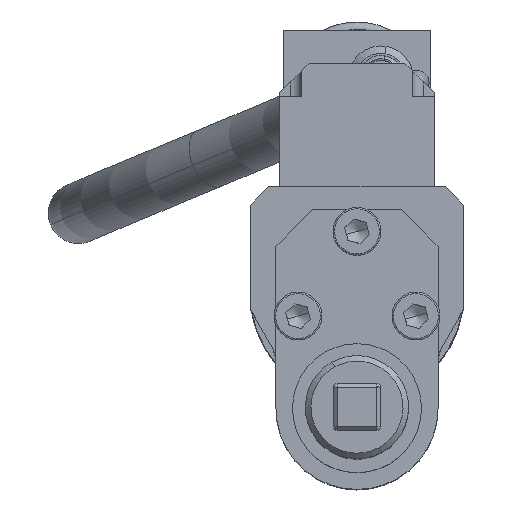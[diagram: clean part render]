
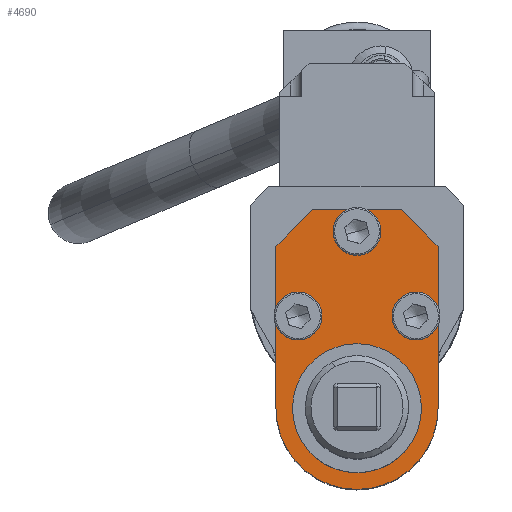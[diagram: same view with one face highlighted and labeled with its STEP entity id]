
A CAD part, top view. The second image highlights one B-rep face of the part: STEP entity #4690.
In plain terms, the highlighted planar face has unit normal (0, 0, 1).
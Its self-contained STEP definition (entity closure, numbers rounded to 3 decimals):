
#4419=CARTESIAN_POINT('Vertex',(17.5,-31.32,508.2)) ;
#4424=CARTESIAN_POINT('Axis2P3D Location',(0.,-31.32,508.2)) ;
#4428=CARTESIAN_POINT('Vertex',(-17.5,-31.32,508.2)) ;
#4450=CARTESIAN_POINT('Axis2P3D Location',(0.,-31.32,508.2)) ;
#4553=CARTESIAN_POINT('Axis2P3D Location',(16.,-6.32,508.2)) ;
#4557=CARTESIAN_POINT('Vertex',(12.206,-4.247,508.2)) ;
#4559=CARTESIAN_POINT('Vertex',(19.794,-8.393,508.2)) ;
#4579=CARTESIAN_POINT('Axis2P3D Location',(16.,-6.32,508.2)) ;
#4591=CARTESIAN_POINT('Axis2P3D Location',(0.,2.78,508.2)) ;
#4596=CARTESIAN_POINT('Line Origine',(-17.,17.68,508.2)) ;
#4600=CARTESIAN_POINT('Vertex',(-12.,22.68,508.2)) ;
#4602=CARTESIAN_POINT('Vertex',(-22.,12.68,508.2)) ;
#4605=CARTESIAN_POINT('Line Origine',(-22.,-9.32,508.2)) ;
#4609=CARTESIAN_POINT('Vertex',(-22.,-31.32,508.2)) ;
#4612=CARTESIAN_POINT('Axis2P3D Location',(0.,-31.32,508.2)) ;
#4616=CARTESIAN_POINT('Vertex',(22.,-31.32,508.2)) ;
#4619=CARTESIAN_POINT('Line Origine',(22.,-9.32,508.2)) ;
#4623=CARTESIAN_POINT('Vertex',(22.,12.68,508.2)) ;
#4626=CARTESIAN_POINT('Line Origine',(17.,17.68,508.2)) ;
#4630=CARTESIAN_POINT('Vertex',(12.,22.68,508.2)) ;
#4633=CARTESIAN_POINT('Line Origine',(0.,22.68,508.2)) ;
#4654=CARTESIAN_POINT('Axis2P3D Location',(-16.,-6.32,508.2)) ;
#4658=CARTESIAN_POINT('Vertex',(-19.794,-4.247,508.2)) ;
#4660=CARTESIAN_POINT('Vertex',(-12.206,-8.393,508.2)) ;
#4663=CARTESIAN_POINT('Axis2P3D Location',(-16.,-6.32,508.2)) ;
#4672=CARTESIAN_POINT('Axis2P3D Location',(0.,16.68,508.2)) ;
#4676=CARTESIAN_POINT('Vertex',(-3.794,18.753,508.2)) ;
#4678=CARTESIAN_POINT('Vertex',(3.794,14.607,508.2)) ;
#4681=CARTESIAN_POINT('Axis2P3D Location',(0.,16.68,508.2)) ;
#4425=DIRECTION('Axis2P3D Direction',(0.,0.,1.)) ;
#4451=DIRECTION('Axis2P3D Direction',(0.,0.,1.)) ;
#4554=DIRECTION('Axis2P3D Direction',(0.,0.,1.)) ;
#4580=DIRECTION('Axis2P3D Direction',(0.,0.,1.)) ;
#4592=DIRECTION('Axis2P3D Direction',(0.,0.,1.)) ;
#4593=DIRECTION('Axis2P3D XDirection',(1.,0.,0.)) ;
#4597=DIRECTION('Vector Direction',(-0.707,-0.707,0.)) ;
#4606=DIRECTION('Vector Direction',(0.,1.,0.)) ;
#4613=DIRECTION('Axis2P3D Direction',(0.,0.,1.)) ;
#4620=DIRECTION('Vector Direction',(0.,-1.,0.)) ;
#4627=DIRECTION('Vector Direction',(0.707,-0.707,0.)) ;
#4634=DIRECTION('Vector Direction',(1.,0.,0.)) ;
#4655=DIRECTION('Axis2P3D Direction',(0.,0.,1.)) ;
#4664=DIRECTION('Axis2P3D Direction',(0.,0.,1.)) ;
#4673=DIRECTION('Axis2P3D Direction',(0.,0.,1.)) ;
#4682=DIRECTION('Axis2P3D Direction',(0.,0.,1.)) ;
#4426=AXIS2_PLACEMENT_3D('Circle Axis2P3D',#4424,#4425,$) ;
#4452=AXIS2_PLACEMENT_3D('Circle Axis2P3D',#4450,#4451,$) ;
#4555=AXIS2_PLACEMENT_3D('Circle Axis2P3D',#4553,#4554,$) ;
#4581=AXIS2_PLACEMENT_3D('Circle Axis2P3D',#4579,#4580,$) ;
#4594=AXIS2_PLACEMENT_3D('Plane Axis2P3D',#4591,#4592,#4593) ;
#4614=AXIS2_PLACEMENT_3D('Circle Axis2P3D',#4612,#4613,$) ;
#4656=AXIS2_PLACEMENT_3D('Circle Axis2P3D',#4654,#4655,$) ;
#4665=AXIS2_PLACEMENT_3D('Circle Axis2P3D',#4663,#4664,$) ;
#4674=AXIS2_PLACEMENT_3D('Circle Axis2P3D',#4672,#4673,$) ;
#4683=AXIS2_PLACEMENT_3D('Circle Axis2P3D',#4681,#4682,$) ;
#4639=ORIENTED_EDGE('',*,*,#4604,.T.) ;
#4640=ORIENTED_EDGE('',*,*,#4611,.T.) ;
#4641=ORIENTED_EDGE('',*,*,#4618,.T.) ;
#4642=ORIENTED_EDGE('',*,*,#4625,.T.) ;
#4643=ORIENTED_EDGE('',*,*,#4632,.T.) ;
#4644=ORIENTED_EDGE('',*,*,#4637,.T.) ;
#4647=ORIENTED_EDGE('',*,*,#4430,.F.) ;
#4648=ORIENTED_EDGE('',*,*,#4454,.F.) ;
#4651=ORIENTED_EDGE('',*,*,#4561,.F.) ;
#4652=ORIENTED_EDGE('',*,*,#4583,.F.) ;
#4669=ORIENTED_EDGE('',*,*,#4662,.F.) ;
#4670=ORIENTED_EDGE('',*,*,#4667,.F.) ;
#4687=ORIENTED_EDGE('',*,*,#4680,.F.) ;
#4688=ORIENTED_EDGE('',*,*,#4685,.F.) ;
#4649=FACE_BOUND('',#4646,.T.) ;
#4653=FACE_BOUND('',#4650,.T.) ;
#4671=FACE_BOUND('',#4668,.T.) ;
#4689=FACE_BOUND('',#4686,.T.) ;
#4598=VECTOR('Line Direction',#4597,1.) ;
#4607=VECTOR('Line Direction',#4606,1.) ;
#4621=VECTOR('Line Direction',#4620,1.) ;
#4628=VECTOR('Line Direction',#4627,1.) ;
#4635=VECTOR('Line Direction',#4634,1.) ;
#4690=ADVANCED_FACE('',(#4645,#4649,#4653,#4671,#4689),#4595,.T.) ;
#4427=CIRCLE('generated circle',#4426,17.5) ;
#4453=CIRCLE('generated circle',#4452,17.5) ;
#4556=CIRCLE('generated circle',#4555,4.324) ;
#4582=CIRCLE('generated circle',#4581,4.324) ;
#4615=CIRCLE('generated circle',#4614,22.) ;
#4657=CIRCLE('generated circle',#4656,4.324) ;
#4666=CIRCLE('generated circle',#4665,4.324) ;
#4675=CIRCLE('generated circle',#4674,4.324) ;
#4684=CIRCLE('generated circle',#4683,4.324) ;
#4430=EDGE_CURVE('',#4420,#4429,#4427,.T.) ;
#4454=EDGE_CURVE('',#4429,#4420,#4453,.T.) ;
#4561=EDGE_CURVE('',#4558,#4560,#4556,.T.) ;
#4583=EDGE_CURVE('',#4560,#4558,#4582,.T.) ;
#4604=EDGE_CURVE('',#4601,#4603,#4599,.T.) ;
#4611=EDGE_CURVE('',#4603,#4610,#4608,.F.) ;
#4618=EDGE_CURVE('',#4610,#4617,#4615,.T.) ;
#4625=EDGE_CURVE('',#4617,#4624,#4622,.F.) ;
#4632=EDGE_CURVE('',#4624,#4631,#4629,.F.) ;
#4637=EDGE_CURVE('',#4631,#4601,#4636,.F.) ;
#4662=EDGE_CURVE('',#4659,#4661,#4657,.T.) ;
#4667=EDGE_CURVE('',#4661,#4659,#4666,.T.) ;
#4680=EDGE_CURVE('',#4677,#4679,#4675,.T.) ;
#4685=EDGE_CURVE('',#4679,#4677,#4684,.T.) ;
#4638=EDGE_LOOP('',(#4639,#4640,#4641,#4642,#4643,#4644)) ;
#4646=EDGE_LOOP('',(#4647,#4648)) ;
#4650=EDGE_LOOP('',(#4651,#4652)) ;
#4668=EDGE_LOOP('',(#4669,#4670)) ;
#4686=EDGE_LOOP('',(#4687,#4688)) ;
#4645=FACE_OUTER_BOUND('',#4638,.T.) ;
#4599=LINE('Line',#4596,#4598) ;
#4608=LINE('Line',#4605,#4607) ;
#4622=LINE('Line',#4619,#4621) ;
#4629=LINE('Line',#4626,#4628) ;
#4636=LINE('Line',#4633,#4635) ;
#4595=PLANE('Plane',#4594) ;
#4420=VERTEX_POINT('',#4419) ;
#4429=VERTEX_POINT('',#4428) ;
#4558=VERTEX_POINT('',#4557) ;
#4560=VERTEX_POINT('',#4559) ;
#4601=VERTEX_POINT('',#4600) ;
#4603=VERTEX_POINT('',#4602) ;
#4610=VERTEX_POINT('',#4609) ;
#4617=VERTEX_POINT('',#4616) ;
#4624=VERTEX_POINT('',#4623) ;
#4631=VERTEX_POINT('',#4630) ;
#4659=VERTEX_POINT('',#4658) ;
#4661=VERTEX_POINT('',#4660) ;
#4677=VERTEX_POINT('',#4676) ;
#4679=VERTEX_POINT('',#4678) ;
